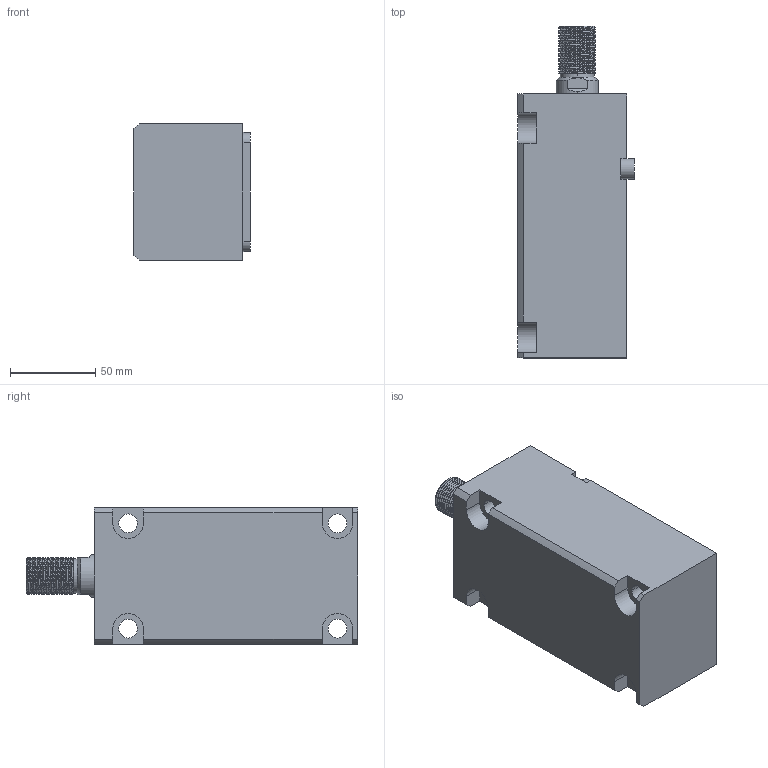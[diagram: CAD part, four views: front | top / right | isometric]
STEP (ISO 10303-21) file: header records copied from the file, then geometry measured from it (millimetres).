
FILE_DESCRIPTION (( 'STEP AP214' ), '1' );
FILE_NAME ('chtb-lam40x100w_asm.STEP', '2018-05-30T03:09:27', ( 'Windows' ), ( 'Microsoft' ), 'SwSTEP 2.0', 'SolidWorks 2015', '' );
FILE_SCHEMA (( 'AUTOMOTIVE_DESIGN' ));
Length unit declared in the file: millimetre
Products named in the file (5): CHTB-LAM40X100NBT; CHTB-LA40PJ; chtb-lam40x100w_asm; CHTB-SD40X100WHSG; CHTB-SD40QG
Assembly tree (4 placements, depth 2):
  chtb-lam40x100w_asm
    CHTB-LA40PJ
    CHTB-LAM40X100NBT
    CHTB-SD40QG
    CHTB-SD40X100WHSG
Bounding box: 68.5 x 195 x 80 mm (x, y, z)
Volume: 696159.9 mm3; surface area: 116197.1 mm2
Topology: 4 solids, 5 shells, 199 faces, 547 edges, 365 vertices
Faces by surface type: cylinder 111, plane 50, bspline 16, torus 12, cone 10
Entity records: 13609 total; most frequent: CARTESIAN_POINT 8674, ORIENTED_EDGE 1082, DIRECTION 894, EDGE_CURVE 541, VERTEX_POINT 365, AXIS2_PLACEMENT_3D 349, EDGE_LOOP 226, ADVANCED_FACE 199
